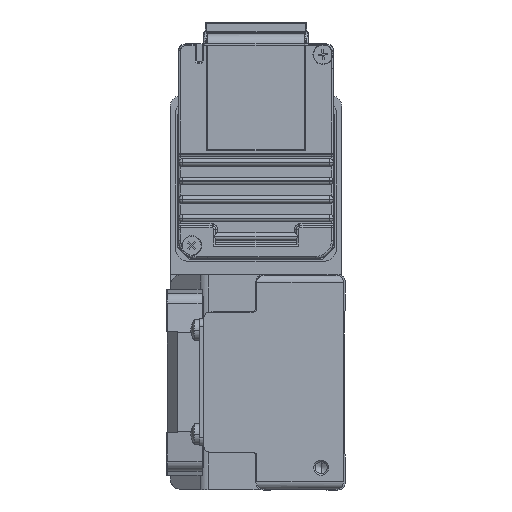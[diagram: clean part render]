
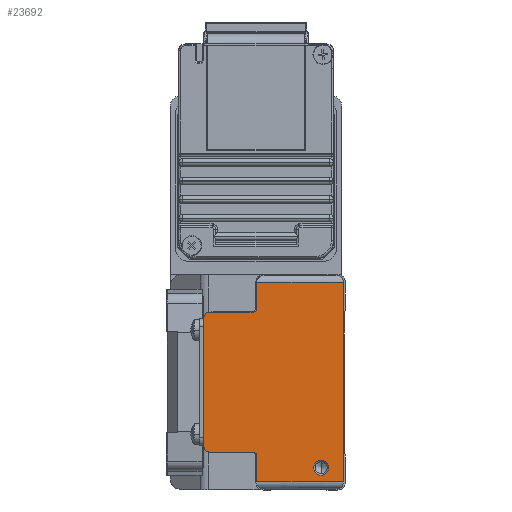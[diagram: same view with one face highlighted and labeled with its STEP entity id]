
A CAD part, left-side view. The second image highlights one B-rep face of the part: STEP entity #23692.
In plain terms, the highlighted planar face has unit normal (-1, 0, 0) as drawn and (0, 0, 1) by its records, which use the part's own axes.
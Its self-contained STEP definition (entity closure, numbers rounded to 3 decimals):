
#671 = EDGE_LOOP ( 'NONE', ( #27411, #42983, #2861, #16466, #23213, #10917, #27830, #39355, #43983, #16307, #39075, #44937 ) ) ;
#970 = DIRECTION ( 'NONE',  ( 0., 0., 1. ) ) ;
#1416 = DIRECTION ( 'NONE',  ( 0., 1., 0. ) ) ;
#2201 = CIRCLE ( 'NONE', #30108, 2. ) ;
#2652 = CARTESIAN_POINT ( 'NONE',  ( 26.8, 24., 620. ) ) ;
#2747 = CARTESIAN_POINT ( 'NONE',  ( -19.8, 23.8, 620. ) ) ;
#2861 = ORIENTED_EDGE ( 'NONE', *, *, #24611, .T. ) ;
#3682 = CARTESIAN_POINT ( 'NONE',  ( 26.8, 23.8, 620. ) ) ;
#4094 = EDGE_CURVE ( 'NONE', #7848, #10640, #34928, .T. ) ;
#5370 = DIRECTION ( 'NONE',  ( 1., 0., 0. ) ) ;
#5718 = DIRECTION ( 'NONE',  ( -1., 0., 0. ) ) ;
#5857 = LINE ( 'NONE', #2652, #38853 ) ;
#6477 = CIRCLE ( 'NONE', #8709, 2. ) ;
#7104 = DIRECTION ( 'NONE',  ( 0., 0., 1. ) ) ;
#7240 = VECTOR ( 'NONE', #5718, 1000. ) ;
#7848 = VERTEX_POINT ( 'NONE', #3682 ) ;
#8709 = AXIS2_PLACEMENT_3D ( 'NONE', #15779, #8906, #33487 ) ;
#8906 = DIRECTION ( 'NONE',  ( 0., 0., -1. ) ) ;
#9537 = LINE ( 'NONE', #23562, #24287 ) ;
#9749 = VERTEX_POINT ( 'NONE', #30149 ) ;
#9990 = AXIS2_PLACEMENT_3D ( 'NONE', #19958, #37600, #13270 ) ;
#10435 = DIRECTION ( 'NONE',  ( 1., 0., 0. ) ) ;
#10601 = DIRECTION ( 'NONE',  ( -1., 0., 0. ) ) ;
#10640 = VERTEX_POINT ( 'NONE', #14913 ) ;
#10917 = ORIENTED_EDGE ( 'NONE', *, *, #36133, .F. ) ;
#12854 = EDGE_CURVE ( 'NONE', #36432, #10640, #27209, .T. ) ;
#13270 = DIRECTION ( 'NONE',  ( 1., 0., 0. ) ) ;
#13926 = VECTOR ( 'NONE', #10601, 1000. ) ;
#14327 = VECTOR ( 'NONE', #43712, 1000. ) ;
#14330 = ORIENTED_EDGE ( 'NONE', *, *, #21381, .T. ) ;
#14607 = VERTEX_POINT ( 'NONE', #17505 ) ;
#14913 = CARTESIAN_POINT ( 'NONE',  ( 19.8, 23.8, 620. ) ) ;
#15194 = CIRCLE ( 'NONE', #40827, 1. ) ;
#15699 = LINE ( 'NONE', #29720, #14327 ) ;
#15779 = CARTESIAN_POINT ( 'NONE',  ( -23., 6.5, 620. ) ) ;
#16214 = VERTEX_POINT ( 'NONE', #18872 ) ;
#16307 = ORIENTED_EDGE ( 'NONE', *, *, #16637, .T. ) ;
#16466 = ORIENTED_EDGE ( 'NONE', *, *, #36399, .T. ) ;
#16569 = LINE ( 'NONE', #2747, #7240 ) ;
#16599 = LINE ( 'NONE', #20054, #16923 ) ;
#16637 = EDGE_CURVE ( 'NONE', #16214, #20172, #21444, .T. ) ;
#16834 = FACE_OUTER_BOUND ( 'NONE', #671, .T. ) ;
#16923 = VECTOR ( 'NONE', #31043, 1000. ) ;
#17505 = CARTESIAN_POINT ( 'NONE',  ( -18.8, 24.8, 620. ) ) ;
#17673 = EDGE_CURVE ( 'NONE', #38829, #25794, #37535, .T. ) ;
#17674 = AXIS2_PLACEMENT_3D ( 'NONE', #42249, #7104, #24822 ) ;
#18872 = CARTESIAN_POINT ( 'NONE',  ( 18.8, 36.5, 620. ) ) ;
#19958 = CARTESIAN_POINT ( 'NONE',  ( -17.3, 36.5, 620. ) ) ;
#20054 = CARTESIAN_POINT ( 'NONE',  ( -26.8, 24., 620. ) ) ;
#20172 = VERTEX_POINT ( 'NONE', #38388 ) ;
#20586 = DIRECTION ( 'NONE',  ( 0., 0., 1. ) ) ;
#20684 = AXIS2_PLACEMENT_3D ( 'NONE', #21249, #970, #10435 ) ;
#20745 = CARTESIAN_POINT ( 'NONE',  ( 26.8, 0.5, 620. ) ) ;
#21249 = CARTESIAN_POINT ( 'NONE',  ( 17.3, 36.5, 620. ) ) ;
#21381 = EDGE_CURVE ( 'NONE', #27392, #39583, #6477, .T. ) ;
#21394 = DIRECTION ( 'NONE',  ( 1., 0., 0. ) ) ;
#21444 = CIRCLE ( 'NONE', #20684, 1.5 ) ;
#21653 = CARTESIAN_POINT ( 'NONE',  ( -25., 6.5, 620. ) ) ;
#21821 = CARTESIAN_POINT ( 'NONE',  ( -17.3, 38., 620. ) ) ;
#23011 = VECTOR ( 'NONE', #5370, 1000. ) ;
#23213 = ORIENTED_EDGE ( 'NONE', *, *, #17673, .T. ) ;
#23562 = CARTESIAN_POINT ( 'NONE',  ( -18.8, 36.5, 620. ) ) ;
#23692 = ADVANCED_FACE ( 'NONE', ( #33844, #16834 ), #30358, .T. ) ;
#23724 = VERTEX_POINT ( 'NONE', #21821 ) ;
#24287 = VECTOR ( 'NONE', #37562, 1000. ) ;
#24611 = EDGE_CURVE ( 'NONE', #32536, #9749, #16569, .T. ) ;
#24822 = DIRECTION ( 'NONE',  ( 1., 0., 0. ) ) ;
#25794 = VERTEX_POINT ( 'NONE', #20745 ) ;
#27209 = CIRCLE ( 'NONE', #17674, 1. ) ;
#27392 = VERTEX_POINT ( 'NONE', #21653 ) ;
#27411 = ORIENTED_EDGE ( 'NONE', *, *, #40902, .T. ) ;
#27830 = ORIENTED_EDGE ( 'NONE', *, *, #4094, .T. ) ;
#28390 = CARTESIAN_POINT ( 'NONE',  ( -19.8, 23.8, 620. ) ) ;
#28599 = CARTESIAN_POINT ( 'NONE',  ( -21., 6.5, 620. ) ) ;
#29198 = EDGE_CURVE ( 'NONE', #32536, #14607, #15194, .T. ) ;
#29720 = CARTESIAN_POINT ( 'NONE',  ( 17.3, 38., 620. ) ) ;
#30108 = AXIS2_PLACEMENT_3D ( 'NONE', #34485, #30571, #31284 ) ;
#30149 = CARTESIAN_POINT ( 'NONE',  ( -26.8, 23.8, 620. ) ) ;
#30358 = PLANE ( 'NONE',  #43073 ) ;
#30571 = DIRECTION ( 'NONE',  ( 0., 0., -1. ) ) ;
#30829 = DIRECTION ( 'NONE',  ( 0., 0., 1. ) ) ;
#31043 = DIRECTION ( 'NONE',  ( 0., -1., 0. ) ) ;
#31284 = DIRECTION ( 'NONE',  ( -1., 0., 0. ) ) ;
#31896 = VECTOR ( 'NONE', #1416, 1000. ) ;
#31917 = EDGE_LOOP ( 'NONE', ( #14330, #33398 ) ) ;
#31981 = CARTESIAN_POINT ( 'NONE',  ( -18.8, 36.5, 620. ) ) ;
#32174 = CARTESIAN_POINT ( 'NONE',  ( 26.8, 23.8, 620. ) ) ;
#32463 = CARTESIAN_POINT ( 'NONE',  ( 18.8, 24.8, 620. ) ) ;
#32536 = VERTEX_POINT ( 'NONE', #28390 ) ;
#33398 = ORIENTED_EDGE ( 'NONE', *, *, #36417, .T. ) ;
#33487 = DIRECTION ( 'NONE',  ( -1., 0., 0. ) ) ;
#33844 = FACE_BOUND ( 'NONE', #31917, .T. ) ;
#34174 = CIRCLE ( 'NONE', #9990, 1.5 ) ;
#34485 = CARTESIAN_POINT ( 'NONE',  ( -23., 6.5, 620. ) ) ;
#34542 = DIRECTION ( 'NONE',  ( 1., 0., 0. ) ) ;
#34928 = LINE ( 'NONE', #32174, #13926 ) ;
#35657 = LINE ( 'NONE', #32463, #31896 ) ;
#36133 = EDGE_CURVE ( 'NONE', #7848, #25794, #5857, .T. ) ;
#36399 = EDGE_CURVE ( 'NONE', #9749, #38829, #16599, .T. ) ;
#36417 = EDGE_CURVE ( 'NONE', #39583, #27392, #2201, .T. ) ;
#36432 = VERTEX_POINT ( 'NONE', #41129 ) ;
#37535 = LINE ( 'NONE', #43966, #23011 ) ;
#37562 = DIRECTION ( 'NONE',  ( 0., -1., 0. ) ) ;
#37600 = DIRECTION ( 'NONE',  ( 0., 0., 1. ) ) ;
#37970 = CARTESIAN_POINT ( 'NONE',  ( -19.8, 24.8, 620. ) ) ;
#38388 = CARTESIAN_POINT ( 'NONE',  ( 17.3, 38., 620. ) ) ;
#38829 = VERTEX_POINT ( 'NONE', #39286 ) ;
#38853 = VECTOR ( 'NONE', #44250, 1000. ) ;
#39075 = ORIENTED_EDGE ( 'NONE', *, *, #39716, .T. ) ;
#39286 = CARTESIAN_POINT ( 'NONE',  ( -26.8, 0.5, 620. ) ) ;
#39355 = ORIENTED_EDGE ( 'NONE', *, *, #12854, .F. ) ;
#39583 = VERTEX_POINT ( 'NONE', #28599 ) ;
#39716 = EDGE_CURVE ( 'NONE', #20172, #23724, #15699, .T. ) ;
#40551 = VERTEX_POINT ( 'NONE', #31981 ) ;
#40827 = AXIS2_PLACEMENT_3D ( 'NONE', #37970, #20586, #34542 ) ;
#40902 = EDGE_CURVE ( 'NONE', #40551, #14607, #9537, .T. ) ;
#41129 = CARTESIAN_POINT ( 'NONE',  ( 18.8, 24.8, 620. ) ) ;
#42234 = CARTESIAN_POINT ( 'NONE',  ( -26.8, 21.8, 620. ) ) ;
#42249 = CARTESIAN_POINT ( 'NONE',  ( 19.8, 24.8, 620. ) ) ;
#42983 = ORIENTED_EDGE ( 'NONE', *, *, #29198, .F. ) ;
#43073 = AXIS2_PLACEMENT_3D ( 'NONE', #42234, #30829, #21394 ) ;
#43712 = DIRECTION ( 'NONE',  ( -1., 0., 0. ) ) ;
#43966 = CARTESIAN_POINT ( 'NONE',  ( -26.8, 0.5, 620. ) ) ;
#43983 = ORIENTED_EDGE ( 'NONE', *, *, #44746, .T. ) ;
#44250 = DIRECTION ( 'NONE',  ( 0., -1., 0. ) ) ;
#44746 = EDGE_CURVE ( 'NONE', #36432, #16214, #35657, .T. ) ;
#44937 = ORIENTED_EDGE ( 'NONE', *, *, #45410, .T. ) ;
#45410 = EDGE_CURVE ( 'NONE', #23724, #40551, #34174, .T. ) ;
